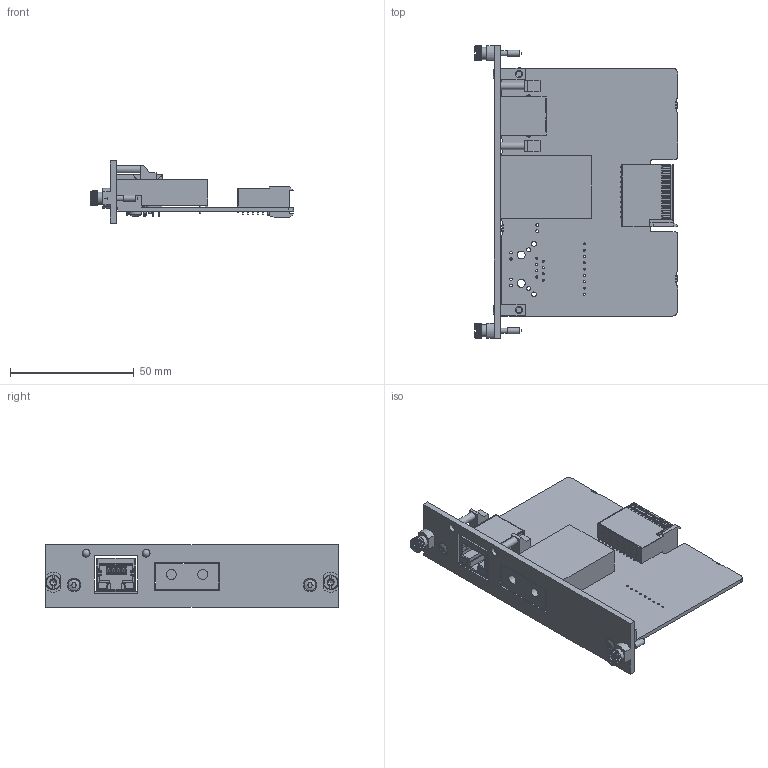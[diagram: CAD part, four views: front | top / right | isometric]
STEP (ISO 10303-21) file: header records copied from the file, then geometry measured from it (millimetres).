
FILE_DESCRIPTION(/* description */ (''),/* implementation_level */ '2;1');
FILE_NAME(/* name */ 'SIM6.2_3D CAD_20250318.stp',/* time_stamp */ '2025-03-18T13:57:14+01:00',/* author */ ('DSP'),/* organization */ (''),/* preprocessor_version */ 'ST-DEVELOPER v19.2',/* originating_system */ 'Autodesk Inventor 2023',/* authorisation */ '');
FILE_SCHEMA (('AUTOMOTIVE_DESIGN { 1 0 10303 214 3 1 1 }'));
Products named in the file (1): SIM6.2_3D CAD_SMPL_20250318
Bounding box: 81.9 x 117.85 x 25.06 mm (x, y, z)
Volume: 34872.2 mm3; surface area: 37463.8 mm2
Topology: 12 solids, 12 shells, 5858 faces, 16758 edges, 10946 vertices
Faces by surface type: plane 3936, cylinder 1764, cone 70, torus 43, sphere 33, bspline 12
Full cylindrical faces by diameter (mm): 0.46 x9, 0.6 x4, 0.7 x66, 0.8 x18, 0.9 x16, 1 x8, 1.15 x6, 1.27 x2, 1.422 x4, 1.59 x2, 1.6 x4, 1.9 x4, 2 x2, 2.5 x4, 2.9 x2, 2.997 x2, 3.2 x4, 4 x2, 4.7 x2, 5 x4
Entity records: 199961 total; most frequent: CARTESIAN_POINT 38454, ORIENTED_EDGE 33454, DIRECTION 31499, EDGE_CURVE 16727, LINE 12213, VECTOR 12213, VERTEX_POINT 10946, AXIS2_PLACEMENT_3D 9643
